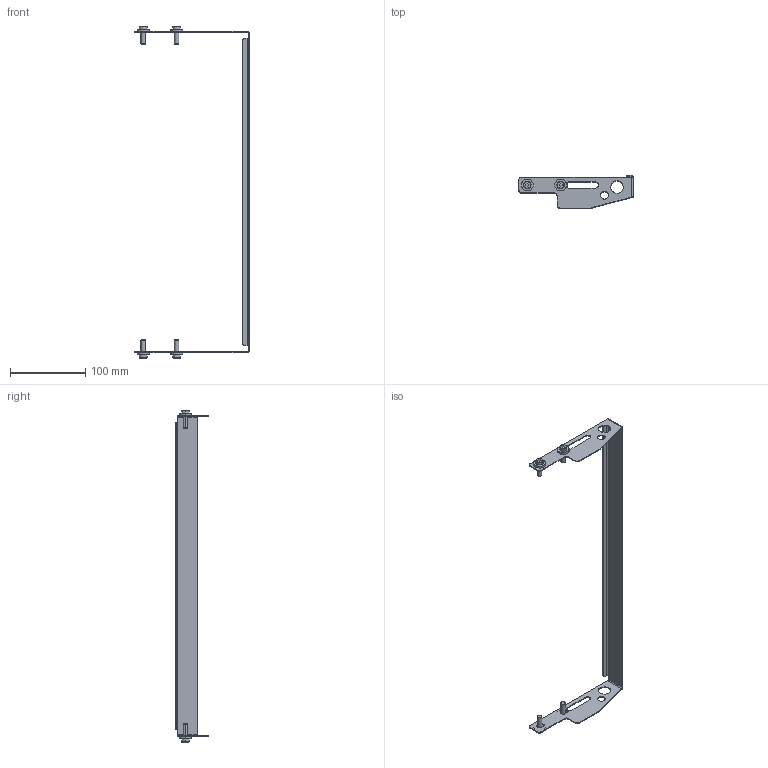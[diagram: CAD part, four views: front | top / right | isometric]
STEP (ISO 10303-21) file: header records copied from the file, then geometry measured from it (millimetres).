
FILE_DESCRIPTION((''),'2;1');
FILE_NAME('207218-16_ASM','2016-11-30T',('jenni.wallner'),(''),'PRO/ENGINEER BY PARAMETRIC TECHNOLOGY CORPORATION, 2012420','PRO/ENGINEER BY PARAMETRIC TECHNOLOGY CORPORATION, 2012420','');
FILE_SCHEMA(('CONFIG_CONTROL_DESIGN'));
Length unit declared in the file: inch
Products named in the file (4): 207125-16; 605279P; 950620M; 207218-16_ASM
Assembly tree (9 placements, depth 2):
  207218-16_ASM
    207125-16
    605279P  x4
    950620M  x4
Bounding box: 151.79 x 43.71 x 441.1 mm (x, y, z)
Volume: 33140.4 mm3; surface area: 53153.9 mm2
Topology: 9 solids, 9 shells, 184 faces, 448 edges, 290 vertices
Faces by surface type: plane 90, cylinder 78, cone 16
Entity records: 3714 total; most frequent: DIRECTION 658, CARTESIAN_POINT 629, ORIENTED_EDGE 596, EDGE_CURVE 298, AXIS2_PLACEMENT_3D 239, VERTEX_POINT 194, VECTOR 180, LINE 180
